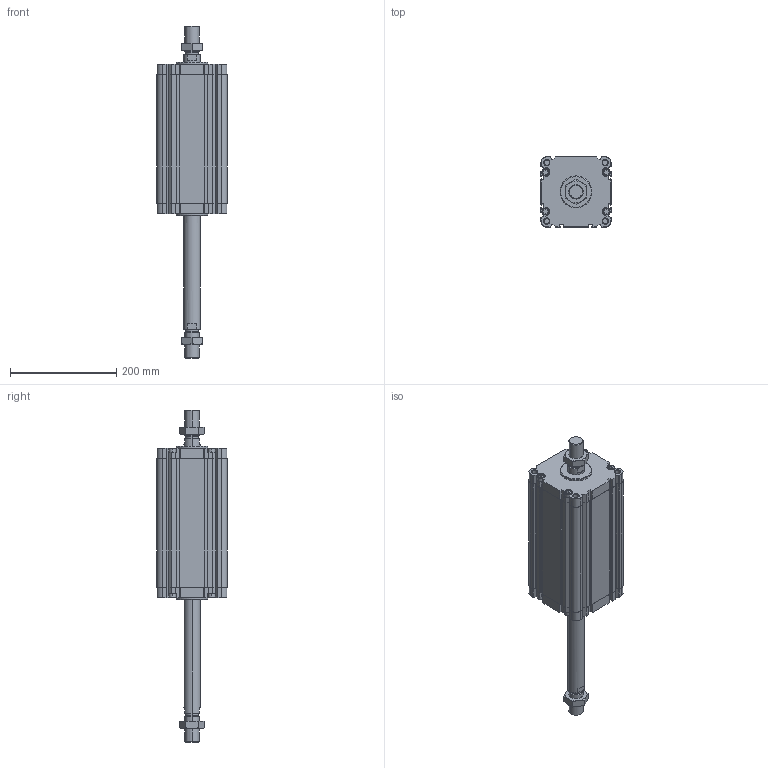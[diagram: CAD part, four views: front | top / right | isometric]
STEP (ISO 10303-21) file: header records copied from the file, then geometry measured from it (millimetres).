
FILE_DESCRIPTION (( 'STEP AP203' ), '1' );
FILE_NAME ('CDVU125-200M-P.STEP', '2020-07-21T16:47:27', ( '' ), ( '' ), 'SwSTEP 2.0', 'SolidWorks 2019', '' );
FILE_SCHEMA (( 'CONFIG_CONTROL_DESIGN' ));
Length unit declared in the file: millimetre
Products named in the file (1): CDVU125-200M-P
Bounding box: 132 x 132 x 625 mm (x, y, z)
Volume: 2723379.6 mm3; surface area: 424456.7 mm2
Topology: 4 solids, 4 shells, 702 faces, 1892 edges, 1230 vertices
Faces by surface type: plane 338, cylinder 280, cone 68, torus 16
Entity records: 22967 total; most frequent: CARTESIAN_POINT 4709, DIRECTION 3930, ORIENTED_EDGE 3776, EDGE_CURVE 1888, AXIS2_PLACEMENT_3D 1363, VERTEX_POINT 1230, VECTOR 1204, LINE 1204
